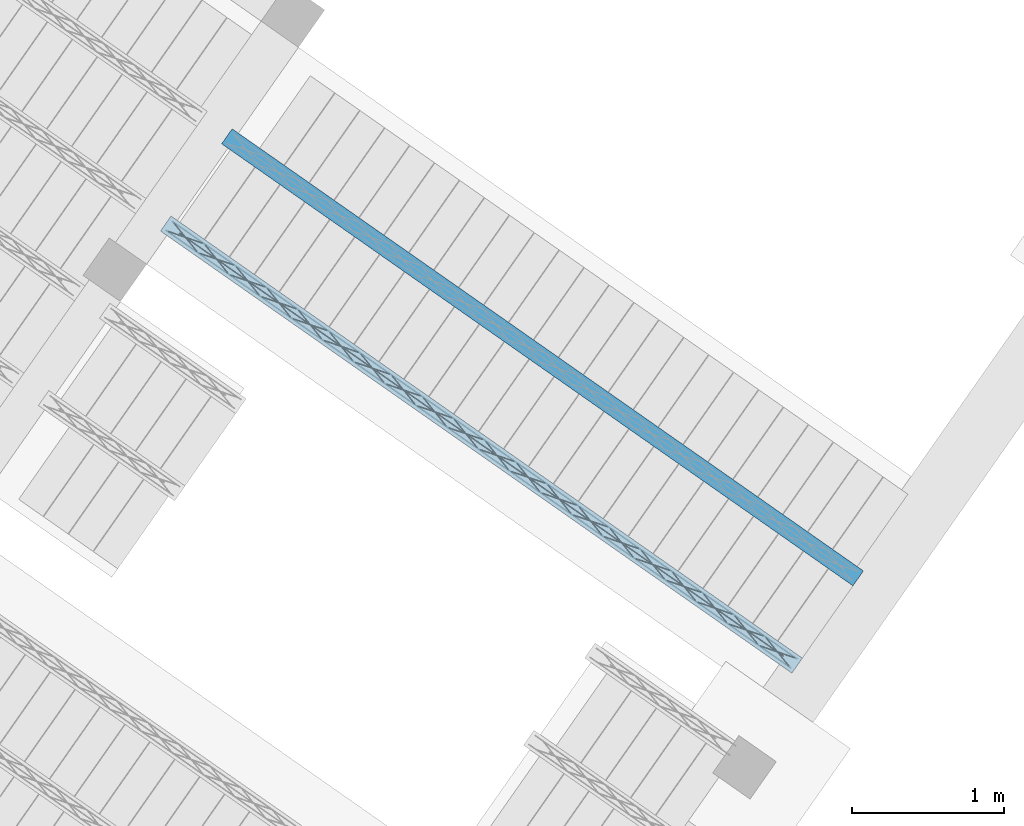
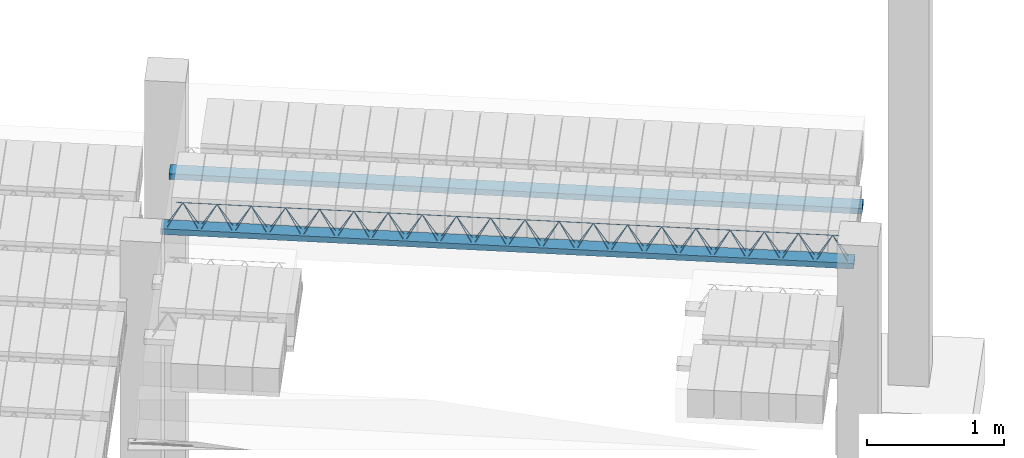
# One storey, part 47 of 80: 2 beams.
"""IFC2X3 building model written with IfcOpenShell, lengths in metres."""

from ifc_helpers import new_model, entity, si_unit, converted_unit, derived_unit, direction, frame, frame_2d, origin, origin_2d_with_axis, place, context, subcontext, project, spatial, rectangle, circle, extrude, material, type_object, element, save


model = new_model("IFC2X3")

# Units and contexts
model_context = context("Model", 3, precision=1e-05, world=origin(), true_north=direction((6.123031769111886e-17, 1.0)))
body_context = subcontext(model_context, "Body", "Model", "MODEL_VIEW")
ifc_project = project(units=[si_unit("LENGTHUNIT", "METRE"), si_unit("AREAUNIT", "SQUARE_METRE"), si_unit("VOLUMEUNIT", "CUBIC_METRE"), converted_unit("PLANEANGLEUNIT", "DEGREE", entity("IfcPlaneAngleMeasure", 0.017453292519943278), si_unit("PLANEANGLEUNIT", "RADIAN"), dimensions=[0, 0, 0, 0, 0, 0, 0]), si_unit("MASSUNIT", "GRAM", prefix="KILO"), derived_unit("MASSDENSITYUNIT", [(si_unit("MASSUNIT", "GRAM", prefix="KILO"), 1), (si_unit("LENGTHUNIT", "METRE"), -3)]), derived_unit("IONCONCENTRATIONUNIT", [(si_unit("MASSUNIT", "GRAM", prefix="KILO"), 1), (si_unit("LENGTHUNIT", "METRE"), -3)]), derived_unit("MOMENTOFINERTIAUNIT", [(si_unit("LENGTHUNIT", "METRE"), 4)]), si_unit("TIMEUNIT", "SECOND"), si_unit("FREQUENCYUNIT", "HERTZ"), si_unit("THERMODYNAMICTEMPERATUREUNIT", "DEGREE_CELSIUS"), derived_unit("THERMALTRANSMITTANCEUNIT", [(si_unit("MASSUNIT", "GRAM", prefix="KILO"), 1), (si_unit("THERMODYNAMICTEMPERATUREUNIT", "KELVIN"), -1), (si_unit("TIMEUNIT", "SECOND"), -3)]), derived_unit("THERMALCONDUCTANCEUNIT", [(si_unit("MASSUNIT", "GRAM", prefix="KILO"), 1), (si_unit("THERMODYNAMICTEMPERATUREUNIT", "KELVIN"), -1), (si_unit("TIMEUNIT", "SECOND"), -3), (si_unit("LENGTHUNIT", "METRE"), 1)]), derived_unit("VOLUMETRICFLOWRATEUNIT", [(si_unit("LENGTHUNIT", "METRE", prefix="DECI"), 3), (si_unit("TIMEUNIT", "SECOND"), -1)]), derived_unit("MASSFLOWRATEUNIT", [(si_unit("MASSUNIT", "GRAM", prefix="KILO"), 1), (si_unit("TIMEUNIT", "SECOND"), -1)]), derived_unit("ROTATIONALFREQUENCYUNIT", [(si_unit("TIMEUNIT", "SECOND"), -1)]), si_unit("ELECTRICCURRENTUNIT", "AMPERE"), si_unit("ELECTRICVOLTAGEUNIT", "VOLT"), si_unit("POWERUNIT", "WATT"), si_unit("FORCEUNIT", "NEWTON", prefix="KILO"), si_unit("ILLUMINANCEUNIT", "LUX"), si_unit("LUMINOUSFLUXUNIT", "LUMEN"), si_unit("LUMINOUSINTENSITYUNIT", "CANDELA"), si_unit("ENERGYUNIT", "JOULE"), derived_unit("USERDEFINED", [(si_unit("MASSUNIT", "GRAM", prefix="KILO"), -1), (si_unit("LENGTHUNIT", "METRE"), -2), (si_unit("TIMEUNIT", "SECOND"), 3), (si_unit("LUMINOUSFLUXUNIT", "LUMEN"), 1)]), derived_unit("USERDEFINED", [(si_unit("MASSUNIT", "GRAM", prefix="KILO"), 1), (si_unit("TIMEUNIT", "SECOND"), -3), (si_unit("LENGTHUNIT", "METRE"), 3), (si_unit("ELECTRICCURRENTUNIT", "AMPERE"), -2)]), derived_unit("SOUNDPOWERUNIT", [(si_unit("MASSUNIT", "GRAM", prefix="KILO"), 1), (si_unit("TIMEUNIT", "SECOND"), -3), (si_unit("LENGTHUNIT", "METRE"), 2)]), derived_unit("SOUNDPRESSUREUNIT", [(si_unit("MASSUNIT", "GRAM", prefix="KILO"), 1), (si_unit("LENGTHUNIT", "METRE"), -1), (si_unit("TIMEUNIT", "SECOND"), -2)]), derived_unit("LINEARVELOCITYUNIT", [(si_unit("LENGTHUNIT", "METRE"), 1), (si_unit("TIMEUNIT", "SECOND"), -1)]), si_unit("PRESSUREUNIT", "PASCAL"), derived_unit("USERDEFINED", [(si_unit("MASSUNIT", "GRAM", prefix="KILO"), 1), (si_unit("LENGTHUNIT", "METRE"), -2), (si_unit("TIMEUNIT", "SECOND"), -2)]), derived_unit("LINEARFORCEUNIT", [(si_unit("MASSUNIT", "GRAM", prefix="KILO"), 1), (si_unit("TIMEUNIT", "SECOND"), -2)]), derived_unit("PLANARFORCEUNIT", [(si_unit("MASSUNIT", "GRAM", prefix="KILO"), 1), (si_unit("LENGTHUNIT", "METRE"), -1), (si_unit("TIMEUNIT", "SECOND"), -2)]), derived_unit("SPECIFICHEATCAPACITYUNIT", [(si_unit("THERMODYNAMICTEMPERATUREUNIT", "KELVIN"), -1), (si_unit("LENGTHUNIT", "METRE"), 2), (si_unit("TIMEUNIT", "SECOND"), -2)]), derived_unit("HEATFLUXDENSITYUNIT", [(si_unit("MASSUNIT", "GRAM", prefix="KILO"), 1), (si_unit("TIMEUNIT", "SECOND"), -3)]), derived_unit("HEATINGVALUEUNIT", [(si_unit("LENGTHUNIT", "METRE"), 2), (si_unit("TIMEUNIT", "SECOND"), -2)]), derived_unit("VAPORPERMEABILITYUNIT", [(si_unit("LENGTHUNIT", "METRE"), -1), (si_unit("TIMEUNIT", "SECOND"), 1)]), derived_unit("DYNAMICVISCOSITYUNIT", [(si_unit("MASSUNIT", "GRAM", prefix="KILO"), 1), (si_unit("TIMEUNIT", "SECOND"), -1), (si_unit("LENGTHUNIT", "METRE"), -1)]), derived_unit("THERMALEXPANSIONCOEFFICIENTUNIT", [(si_unit("THERMODYNAMICTEMPERATUREUNIT", "KELVIN"), -1)]), derived_unit("MODULUSOFELASTICITYUNIT", [(si_unit("MASSUNIT", "GRAM", prefix="KILO"), 1), (si_unit("LENGTHUNIT", "METRE"), -1), (si_unit("TIMEUNIT", "SECOND"), -2)]), derived_unit("ISOTHERMALMOISTURECAPACITYUNIT", [(si_unit("MASSUNIT", "GRAM", prefix="KILO"), -1), (si_unit("LENGTHUNIT", "METRE"), 3)]), derived_unit("MOISTUREDIFFUSIVITYUNIT", [(si_unit("TIMEUNIT", "SECOND"), -1), (si_unit("LENGTHUNIT", "METRE"), 2)]), derived_unit("MASSPERLENGTHUNIT", [(si_unit("MASSUNIT", "GRAM", prefix="KILO"), 1), (si_unit("LENGTHUNIT", "METRE"), -1)]), derived_unit("THERMALRESISTANCEUNIT", [(si_unit("MASSUNIT", "GRAM", prefix="KILO"), -1), (si_unit("TIMEUNIT", "SECOND"), 3), (si_unit("THERMODYNAMICTEMPERATUREUNIT", "KELVIN"), 1)]), derived_unit("ACCELERATIONUNIT", [(si_unit("LENGTHUNIT", "METRE"), 1), (si_unit("TIMEUNIT", "SECOND"), -2)]), derived_unit("ANGULARVELOCITYUNIT", [(si_unit("TIMEUNIT", "SECOND"), -1), (si_unit("PLANEANGLEUNIT", "RADIAN"), 1)]), derived_unit("LINEARSTIFFNESSUNIT", [(si_unit("MASSUNIT", "GRAM", prefix="KILO"), 1), (si_unit("TIMEUNIT", "SECOND"), -2)]), derived_unit("WARPINGCONSTANTUNIT", [(si_unit("LENGTHUNIT", "METRE"), 6)]), derived_unit("LINEARMOMENTUNIT", [(si_unit("MASSUNIT", "GRAM", prefix="KILO"), 1), (si_unit("LENGTHUNIT", "METRE"), 1), (si_unit("TIMEUNIT", "SECOND"), -2)]), derived_unit("TORQUEUNIT", [(si_unit("MASSUNIT", "GRAM", prefix="KILO"), 1), (si_unit("LENGTHUNIT", "METRE"), 2), (si_unit("TIMEUNIT", "SECOND"), -2)])], contexts=[model_context])

# Site, building, storey
site_placement = place(None, origin())
site = spatial("IfcSite", under=ifc_project, at=site_placement, Name="Default", CompositionType="ELEMENT")
building_placement = place(site_placement, origin())
building = spatial("IfcBuilding", under=site, at=building_placement, CompositionType="ELEMENT")
storey_placement = place(building_placement, frame((0.0, 0.0, 95.94)))
storey = spatial("IfcBuildingStorey", under=building, at=storey_placement, Name="PB", CompositionType="ELEMENT", Elevation=95.94)

# Beams
beam_type = type_object("IfcBeamType", Name="Vigueta 1 (Paño 15) (Mf = 33.15)", PredefinedType="JOIST")
beam_1_placement = place(storey_placement, origin())
element("IfcBeam", 1, at=beam_1_placement, inside=storey, type_object=beam_type, Name="Vigueta 1 (Paño 15) (Mf = 33.15)", ObjectType="Mf = 33.15", context=body_context, shape_type="SweptSolid", body=[
    extrude(rectangle(XDim=5.065554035, YDim=0.11999999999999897, at=frame_2d((2.220446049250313e-16, 8.118505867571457e-16), x_axis=(1.0, 0.0))), frame((8.239411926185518, 6.377753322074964, 3.2799999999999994), z_axis=(0.0, 0.0, 1.0), x_axis=(0.8191520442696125, -0.5735764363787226, 0.0)), (0.0, 0.0, 1.0), 0.04999999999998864),
    extrude(circle(Radius=0.0025, at=origin_2d_with_axis()), frame((6.163693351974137, 7.787239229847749, 3.3049999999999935), z_axis=(0.8191520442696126, -0.5735764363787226, 0.0), x_axis=(-0.5735764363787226, -0.8191520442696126, 0.0)), (0.0, 0.0, 1.0), 5.017554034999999),
    extrude(circle(Radius=0.0025, at=origin_2d_with_axis()), frame((10.225855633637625, 4.986830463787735, 3.5299999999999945), z_axis=(-0.8191520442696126, 0.5735764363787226, 0.0), x_axis=(-0.5735764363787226, -0.8191520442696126, 0.0)), (0.0, 0.0, 1.0), 4.849999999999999),
    extrude(circle(Radius=0.0025, at=origin_2d_with_axis()), frame((10.26664328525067, 4.914322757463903, 3.3049999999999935), z_axis=(-0.3145304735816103, 0.389334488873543, 0.8657304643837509), x_axis=(-0.7778747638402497, -0.6284193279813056, 0.0)), (0.0, 0.0, 1.0), 0.2598961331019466),
    extrude(circle(Radius=0.0025, at=origin_2d_with_axis()), frame((10.061855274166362, 5.057716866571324, 3.3049999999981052), z_axis=(0.47343050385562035, -0.1624017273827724, 0.8657304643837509), x_axis=(-0.3244721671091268, -0.9458952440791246, 0.0)), (0.0, 0.0, 1.0), 0.25989613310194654),
    extrude(circle(Radius=0.0025, at=origin_2d_with_axis()), frame((10.061855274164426, 5.057716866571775, 3.3049999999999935), z_axis=(-0.3145304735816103, 0.389334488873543, 0.8657304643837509), x_axis=(-0.7778747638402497, -0.6284193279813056, 0.0)), (0.0, 0.0, 1.0), 0.2598961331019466),
    extrude(circle(Radius=0.0025, at=origin_2d_with_axis()), frame((9.857067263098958, 5.201110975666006, 3.3049999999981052), z_axis=(0.47343050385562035, -0.1624017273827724, 0.8657304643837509), x_axis=(-0.3244721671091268, -0.9458952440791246, 0.0)), (0.0, 0.0, 1.0), 0.25989613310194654),
    extrude(circle(Radius=0.0025, at=origin_2d_with_axis()), frame((9.857067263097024, 5.201110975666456, 3.3049999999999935), z_axis=(-0.3145304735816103, 0.389334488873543, 0.8657304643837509), x_axis=(-0.7778747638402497, -0.6284193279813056, 0.0)), (0.0, 0.0, 1.0), 0.2598961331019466),
    extrude(circle(Radius=0.0025, at=origin_2d_with_axis()), frame((9.652279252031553, 5.344505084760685, 3.3049999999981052), z_axis=(0.47343050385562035, -0.1624017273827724, 0.8657304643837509), x_axis=(-0.3244721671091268, -0.9458952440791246, 0.0)), (0.0, 0.0, 1.0), 0.25989613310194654),
    extrude(circle(Radius=0.0025, at=origin_2d_with_axis()), frame((9.65227925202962, 5.3445050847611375, 3.3049999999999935), z_axis=(-0.3145304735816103, 0.389334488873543, 0.8657304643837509), x_axis=(-0.7778747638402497, -0.6284193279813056, 0.0)), (0.0, 0.0, 1.0), 0.2598961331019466),
    extrude(circle(Radius=0.0025, at=origin_2d_with_axis()), frame((9.447491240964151, 5.487899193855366, 3.3049999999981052), z_axis=(0.47343050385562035, -0.1624017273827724, 0.8657304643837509), x_axis=(-0.3244721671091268, -0.9458952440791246, 0.0)), (0.0, 0.0, 1.0), 0.25989613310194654),
    extrude(circle(Radius=0.0025, at=origin_2d_with_axis()), frame((9.447491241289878, 5.4878991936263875, 3.3049999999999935), z_axis=(-0.3145304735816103, 0.389334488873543, 0.8657304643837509), x_axis=(-0.7778747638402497, -0.6284193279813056, 0.0)), (0.0, 0.0, 1.0), 0.2598961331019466),
    extrude(circle(Radius=0.0025, at=origin_2d_with_axis()), frame((9.242703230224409, 5.631293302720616, 3.3049999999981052), z_axis=(0.47343050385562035, -0.1624017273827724, 0.8657304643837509), x_axis=(-0.3244721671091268, -0.9458952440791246, 0.0)), (0.0, 0.0, 1.0), 0.25989613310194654),
    extrude(circle(Radius=0.0025, at=origin_2d_with_axis()), frame((9.242703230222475, 5.631293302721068, 3.3049999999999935), z_axis=(-0.3145304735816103, 0.389334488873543, 0.8657304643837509), x_axis=(-0.7778747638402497, -0.6284193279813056, 0.0)), (0.0, 0.0, 1.0), 0.2598961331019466),
    extrude(circle(Radius=0.0025, at=origin_2d_with_axis()), frame((9.037915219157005, 5.7746874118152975, 3.3049999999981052), z_axis=(0.47343050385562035, -0.1624017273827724, 0.8657304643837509), x_axis=(-0.3244721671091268, -0.9458952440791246, 0.0)), (0.0, 0.0, 1.0), 0.25989613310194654),
    extrude(circle(Radius=0.0025, at=origin_2d_with_axis()), frame((9.037915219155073, 5.774687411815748, 3.3049999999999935), z_axis=(-0.3145304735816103, 0.389334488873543, 0.8657304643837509), x_axis=(-0.7778747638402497, -0.6284193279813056, 0.0)), (0.0, 0.0, 1.0), 0.2598961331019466),
    extrude(circle(Radius=0.0025, at=origin_2d_with_axis()), frame((8.833127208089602, 5.918081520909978, 3.3049999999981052), z_axis=(0.47343050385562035, -0.1624017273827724, 0.8657304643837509), x_axis=(-0.3244721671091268, -0.9458952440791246, 0.0)), (0.0, 0.0, 1.0), 0.25989613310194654),
    extrude(circle(Radius=0.0025, at=origin_2d_with_axis()), frame((8.833127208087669, 5.918081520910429, 3.3049999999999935), z_axis=(-0.3145304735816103, 0.389334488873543, 0.8657304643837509), x_axis=(-0.7778747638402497, -0.6284193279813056, 0.0)), (0.0, 0.0, 1.0), 0.2598961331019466),
    extrude(circle(Radius=0.0025, at=origin_2d_with_axis()), frame((8.6283391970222, 6.061475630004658, 3.3049999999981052), z_axis=(0.47343050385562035, -0.1624017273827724, 0.8657304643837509), x_axis=(-0.3244721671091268, -0.9458952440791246, 0.0)), (0.0, 0.0, 1.0), 0.25989613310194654),
    extrude(circle(Radius=0.0025, at=origin_2d_with_axis()), frame((8.628339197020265, 6.06147563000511, 3.3049999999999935), z_axis=(-0.3145304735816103, 0.389334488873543, 0.8657304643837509), x_axis=(-0.7778747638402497, -0.6284193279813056, 0.0)), (0.0, 0.0, 1.0), 0.2598961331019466),
    extrude(circle(Radius=0.0025, at=origin_2d_with_axis()), frame((8.423551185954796, 6.204869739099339, 3.3049999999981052), z_axis=(0.47343050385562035, -0.1624017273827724, 0.8657304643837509), x_axis=(-0.3244721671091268, -0.9458952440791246, 0.0)), (0.0, 0.0, 1.0), 0.25989613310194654),
    extrude(circle(Radius=0.0025, at=origin_2d_with_axis()), frame((8.423551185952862, 6.20486973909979, 3.3049999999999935), z_axis=(-0.3145304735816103, 0.389334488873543, 0.8657304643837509), x_axis=(-0.7778747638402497, -0.6284193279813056, 0.0)), (0.0, 0.0, 1.0), 0.2598961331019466),
    extrude(circle(Radius=0.0025, at=origin_2d_with_axis()), frame((8.218763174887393, 6.34826384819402, 3.3049999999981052), z_axis=(0.47343050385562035, -0.1624017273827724, 0.8657304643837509), x_axis=(-0.3244721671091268, -0.9458952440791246, 0.0)), (0.0, 0.0, 1.0), 0.25989613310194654),
    extrude(circle(Radius=0.0025, at=origin_2d_with_axis()), frame((8.21876317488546, 6.348263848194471, 3.3049999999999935), z_axis=(-0.3145304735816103, 0.389334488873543, 0.8657304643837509), x_axis=(-0.7778747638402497, -0.6284193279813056, 0.0)), (0.0, 0.0, 1.0), 0.2598961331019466),
    extrude(circle(Radius=0.0025, at=origin_2d_with_axis()), frame((8.013975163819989, 6.4916579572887, 3.3049999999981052), z_axis=(0.47343050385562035, -0.1624017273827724, 0.8657304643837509), x_axis=(-0.3244721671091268, -0.9458952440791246, 0.0)), (0.0, 0.0, 1.0), 0.25989613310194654),
    extrude(circle(Radius=0.0025, at=origin_2d_with_axis()), frame((8.013975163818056, 6.491657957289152, 3.3049999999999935), z_axis=(-0.3145304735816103, 0.389334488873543, 0.8657304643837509), x_axis=(-0.7778747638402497, -0.6284193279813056, 0.0)), (0.0, 0.0, 1.0), 0.2598961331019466),
    extrude(circle(Radius=0.0025, at=origin_2d_with_axis()), frame((7.809187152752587, 6.6350520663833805, 3.3049999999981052), z_axis=(0.47343050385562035, -0.1624017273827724, 0.8657304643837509), x_axis=(-0.3244721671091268, -0.9458952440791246, 0.0)), (0.0, 0.0, 1.0), 0.25989613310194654),
    extrude(circle(Radius=0.0025, at=origin_2d_with_axis()), frame((7.809187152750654, 6.635052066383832, 3.3049999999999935), z_axis=(-0.3145304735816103, 0.389334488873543, 0.8657304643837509), x_axis=(-0.7778747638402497, -0.6284193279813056, 0.0)), (0.0, 0.0, 1.0), 0.2598961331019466),
    extrude(circle(Radius=0.0025, at=origin_2d_with_axis()), frame((7.604399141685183, 6.778446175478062, 3.3049999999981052), z_axis=(0.47343050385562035, -0.1624017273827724, 0.8657304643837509), x_axis=(-0.3244721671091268, -0.9458952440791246, 0.0)), (0.0, 0.0, 1.0), 0.25989613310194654),
    extrude(circle(Radius=0.0025, at=origin_2d_with_axis()), frame((7.60439914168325, 6.778446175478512, 3.3049999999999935), z_axis=(-0.3145304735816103, 0.389334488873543, 0.8657304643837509), x_axis=(-0.7778747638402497, -0.6284193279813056, 0.0)), (0.0, 0.0, 1.0), 0.2598961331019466),
    extrude(circle(Radius=0.0025, at=origin_2d_with_axis()), frame((7.399611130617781, 6.921840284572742, 3.3049999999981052), z_axis=(0.47343050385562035, -0.1624017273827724, 0.8657304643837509), x_axis=(-0.3244721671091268, -0.9458952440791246, 0.0)), (0.0, 0.0, 1.0), 0.25989613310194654),
    extrude(circle(Radius=0.0025, at=origin_2d_with_axis()), frame((7.399611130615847, 6.921840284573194, 3.3049999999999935), z_axis=(-0.3145304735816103, 0.389334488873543, 0.8657304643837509), x_axis=(-0.7778747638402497, -0.6284193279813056, 0.0)), (0.0, 0.0, 1.0), 0.2598961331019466),
    extrude(circle(Radius=0.0025, at=origin_2d_with_axis()), frame((7.194823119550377, 7.0652343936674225, 3.3049999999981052), z_axis=(0.47343050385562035, -0.1624017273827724, 0.8657304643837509), x_axis=(-0.3244721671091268, -0.9458952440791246, 0.0)), (0.0, 0.0, 1.0), 0.25989613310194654),
    extrude(circle(Radius=0.0025, at=origin_2d_with_axis()), frame((7.1948231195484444, 7.065234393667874, 3.3049999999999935), z_axis=(-0.3145304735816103, 0.389334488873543, 0.8657304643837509), x_axis=(-0.7778747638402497, -0.6284193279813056, 0.0)), (0.0, 0.0, 1.0), 0.2598961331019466),
    extrude(circle(Radius=0.0025, at=origin_2d_with_axis()), frame((6.990035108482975, 7.208628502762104, 3.3049999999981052), z_axis=(0.47343050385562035, -0.1624017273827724, 0.8657304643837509), x_axis=(-0.3244721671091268, -0.9458952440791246, 0.0)), (0.0, 0.0, 1.0), 0.25989613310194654),
    extrude(circle(Radius=0.0025, at=origin_2d_with_axis()), frame((6.99003510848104, 7.208628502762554, 3.3049999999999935), z_axis=(-0.3145304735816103, 0.389334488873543, 0.8657304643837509), x_axis=(-0.7778747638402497, -0.6284193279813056, 0.0)), (0.0, 0.0, 1.0), 0.2598961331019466),
    extrude(circle(Radius=0.0025, at=origin_2d_with_axis()), frame((6.785247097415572, 7.352022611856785, 3.3049999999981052), z_axis=(0.47343050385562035, -0.1624017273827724, 0.8657304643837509), x_axis=(-0.3244721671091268, -0.9458952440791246, 0.0)), (0.0, 0.0, 1.0), 0.25989613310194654),
    extrude(circle(Radius=0.0025, at=origin_2d_with_axis()), frame((6.785247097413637, 7.352022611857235, 3.3049999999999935), z_axis=(-0.3145304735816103, 0.389334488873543, 0.8657304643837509), x_axis=(-0.7778747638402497, -0.6284193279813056, 0.0)), (0.0, 0.0, 1.0), 0.2598961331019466),
    extrude(circle(Radius=0.0025, at=origin_2d_with_axis()), frame((6.580459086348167, 7.495416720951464, 3.3049999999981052), z_axis=(0.47343050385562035, -0.1624017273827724, 0.8657304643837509), x_axis=(-0.3244721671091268, -0.9458952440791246, 0.0)), (0.0, 0.0, 1.0), 0.25989613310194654),
    extrude(circle(Radius=0.0025, at=origin_2d_with_axis()), frame((6.580459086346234, 7.4954167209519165, 3.3049999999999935), z_axis=(-0.3145304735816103, 0.389334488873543, 0.8657304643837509), x_axis=(-0.7778747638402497, -0.6284193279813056, 0.0)), (0.0, 0.0, 1.0), 0.2598961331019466),
    extrude(circle(Radius=0.0025, at=origin_2d_with_axis()), frame((6.375671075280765, 7.638810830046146, 3.3049999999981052), z_axis=(0.47343050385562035, -0.1624017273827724, 0.8657304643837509), x_axis=(-0.3244721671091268, -0.9458952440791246, 0.0)), (0.0, 0.0, 1.0), 0.25989613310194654),
    extrude(circle(Radius=0.0025, at=origin_2d_with_axis()), frame((6.375671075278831, 7.638810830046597, 3.3049999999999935), z_axis=(-0.3145304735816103, 0.389334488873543, 0.8657304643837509), x_axis=(-0.7778747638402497, -0.6284193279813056, 0.0)), (0.0, 0.0, 1.0), 0.2598961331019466),
    extrude(circle(Radius=0.0025, at=origin_2d_with_axis()), frame((6.170883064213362, 7.782204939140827, 3.3049999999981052), z_axis=(0.47343050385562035, -0.1624017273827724, 0.8657304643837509), x_axis=(-0.3244721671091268, -0.9458952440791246, 0.0)), (0.0, 0.0, 1.0), 0.25989613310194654),
    extrude(circle(Radius=0.0025, at=origin_2d_with_axis()), frame((10.315130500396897, 4.968267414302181, 3.3049999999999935), z_axis=(-0.8191520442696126, 0.5735764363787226, 0.0), x_axis=(-0.5735764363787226, -0.8191520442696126, 0.0)), (0.0, 0.0, 1.0), 5.017554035),
    extrude(circle(Radius=0.0025, at=origin_2d_with_axis()), frame((10.307940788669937, 4.973301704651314, 3.3049999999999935), z_axis=(-0.47343050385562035, 0.1624017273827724, 0.8657304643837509), x_axis=(-0.3244721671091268, -0.9458952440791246, 0.0)), (0.0, 0.0, 1.0), 0.25989613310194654),
    extrude(circle(Radius=0.0025, at=origin_2d_with_axis()), frame((10.103152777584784, 5.116695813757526, 3.3049999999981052), z_axis=(0.3145304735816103, -0.389334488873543, 0.8657304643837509), x_axis=(-0.7778747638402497, -0.6284193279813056, 0.0)), (0.0, 0.0, 1.0), 0.2598961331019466),
    extrude(circle(Radius=0.0025, at=origin_2d_with_axis()), frame((10.103152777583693, 5.116695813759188, 3.3049999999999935), z_axis=(-0.47343050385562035, 0.1624017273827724, 0.8657304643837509), x_axis=(-0.3244721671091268, -0.9458952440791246, 0.0)), (0.0, 0.0, 1.0), 0.25989613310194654),
    extrude(circle(Radius=0.0025, at=origin_2d_with_axis()), frame((9.898364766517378, 5.260089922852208, 3.3049999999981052), z_axis=(0.3145304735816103, -0.389334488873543, 0.8657304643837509), x_axis=(-0.7778747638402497, -0.6284193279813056, 0.0)), (0.0, 0.0, 1.0), 0.2598961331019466),
    extrude(circle(Radius=0.0025, at=origin_2d_with_axis()), frame((9.898364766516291, 5.260089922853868, 3.3049999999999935), z_axis=(-0.47343050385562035, 0.1624017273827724, 0.8657304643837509), x_axis=(-0.3244721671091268, -0.9458952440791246, 0.0)), (0.0, 0.0, 1.0), 0.25989613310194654),
    extrude(circle(Radius=0.0025, at=origin_2d_with_axis()), frame((9.693576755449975, 5.403484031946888, 3.3049999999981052), z_axis=(0.3145304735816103, -0.389334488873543, 0.8657304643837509), x_axis=(-0.7778747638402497, -0.6284193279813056, 0.0)), (0.0, 0.0, 1.0), 0.2598961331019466),
    extrude(circle(Radius=0.0025, at=origin_2d_with_axis()), frame((9.693576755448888, 5.403484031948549, 3.3049999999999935), z_axis=(-0.47343050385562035, 0.1624017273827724, 0.8657304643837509), x_axis=(-0.3244721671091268, -0.9458952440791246, 0.0)), (0.0, 0.0, 1.0), 0.25989613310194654),
    extrude(circle(Radius=0.0025, at=origin_2d_with_axis()), frame((9.488788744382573, 5.546878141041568, 3.3049999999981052), z_axis=(0.3145304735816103, -0.389334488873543, 0.8657304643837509), x_axis=(-0.7778747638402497, -0.6284193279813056, 0.0)), (0.0, 0.0, 1.0), 0.2598961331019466),
    extrude(circle(Radius=0.0025, at=origin_2d_with_axis()), frame((9.488788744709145, 5.546878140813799, 3.3049999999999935), z_axis=(-0.47343050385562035, 0.1624017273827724, 0.8657304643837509), x_axis=(-0.3244721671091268, -0.9458952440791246, 0.0)), (0.0, 0.0, 1.0), 0.25989613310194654),
    extrude(circle(Radius=0.0025, at=origin_2d_with_axis()), frame((9.28400073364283, 5.690272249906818, 3.3049999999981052), z_axis=(0.3145304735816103, -0.389334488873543, 0.8657304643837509), x_axis=(-0.7778747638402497, -0.6284193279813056, 0.0)), (0.0, 0.0, 1.0), 0.2598961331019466),
    extrude(circle(Radius=0.0025, at=origin_2d_with_axis()), frame((9.284000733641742, 5.69027224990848, 3.3049999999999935), z_axis=(-0.47343050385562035, 0.1624017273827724, 0.8657304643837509), x_axis=(-0.3244721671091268, -0.9458952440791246, 0.0)), (0.0, 0.0, 1.0), 0.25989613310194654),
    extrude(circle(Radius=0.0025, at=origin_2d_with_axis()), frame((9.079212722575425, 5.8336663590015, 3.3049999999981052), z_axis=(0.3145304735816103, -0.389334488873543, 0.8657304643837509), x_axis=(-0.7778747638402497, -0.6284193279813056, 0.0)), (0.0, 0.0, 1.0), 0.2598961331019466),
    extrude(circle(Radius=0.0025, at=origin_2d_with_axis()), frame((9.07921272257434, 5.83366635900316, 3.3049999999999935), z_axis=(-0.47343050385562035, 0.1624017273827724, 0.8657304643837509), x_axis=(-0.3244721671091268, -0.9458952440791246, 0.0)), (0.0, 0.0, 1.0), 0.25989613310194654),
    extrude(circle(Radius=0.0025, at=origin_2d_with_axis()), frame((8.874424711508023, 5.97706046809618, 3.3049999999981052), z_axis=(0.3145304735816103, -0.389334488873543, 0.8657304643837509), x_axis=(-0.7778747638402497, -0.6284193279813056, 0.0)), (0.0, 0.0, 1.0), 0.2598961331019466),
    extrude(circle(Radius=0.0025, at=origin_2d_with_axis()), frame((8.874424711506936, 5.977060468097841, 3.3049999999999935), z_axis=(-0.47343050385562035, 0.1624017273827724, 0.8657304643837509), x_axis=(-0.3244721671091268, -0.9458952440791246, 0.0)), (0.0, 0.0, 1.0), 0.25989613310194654),
    extrude(circle(Radius=0.0025, at=origin_2d_with_axis()), frame((8.66963670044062, 6.120454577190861, 3.3049999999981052), z_axis=(0.3145304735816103, -0.389334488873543, 0.8657304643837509), x_axis=(-0.7778747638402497, -0.6284193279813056, 0.0)), (0.0, 0.0, 1.0), 0.2598961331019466),
    extrude(circle(Radius=0.0025, at=origin_2d_with_axis()), frame((8.669636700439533, 6.120454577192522, 3.3049999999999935), z_axis=(-0.47343050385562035, 0.1624017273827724, 0.8657304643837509), x_axis=(-0.3244721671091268, -0.9458952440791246, 0.0)), (0.0, 0.0, 1.0), 0.25989613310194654),
    extrude(circle(Radius=0.0025, at=origin_2d_with_axis()), frame((8.464848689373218, 6.263848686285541, 3.3049999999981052), z_axis=(0.3145304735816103, -0.389334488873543, 0.8657304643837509), x_axis=(-0.7778747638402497, -0.6284193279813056, 0.0)), (0.0, 0.0, 1.0), 0.2598961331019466),
    extrude(circle(Radius=0.0025, at=origin_2d_with_axis()), frame((8.46484868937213, 6.263848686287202, 3.3049999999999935), z_axis=(-0.47343050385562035, 0.1624017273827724, 0.8657304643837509), x_axis=(-0.3244721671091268, -0.9458952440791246, 0.0)), (0.0, 0.0, 1.0), 0.25989613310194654),
    extrude(circle(Radius=0.0025, at=origin_2d_with_axis()), frame((8.260060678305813, 6.407242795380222, 3.3049999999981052), z_axis=(0.3145304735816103, -0.389334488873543, 0.8657304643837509), x_axis=(-0.7778747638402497, -0.6284193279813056, 0.0)), (0.0, 0.0, 1.0), 0.2598961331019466),
    extrude(circle(Radius=0.0025, at=origin_2d_with_axis()), frame((8.260060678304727, 6.407242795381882, 3.3049999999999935), z_axis=(-0.47343050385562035, 0.1624017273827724, 0.8657304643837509), x_axis=(-0.3244721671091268, -0.9458952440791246, 0.0)), (0.0, 0.0, 1.0), 0.25989613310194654),
    extrude(circle(Radius=0.0025, at=origin_2d_with_axis()), frame((8.05527266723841, 6.550636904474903, 3.3049999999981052), z_axis=(0.3145304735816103, -0.389334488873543, 0.8657304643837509), x_axis=(-0.7778747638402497, -0.6284193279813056, 0.0)), (0.0, 0.0, 1.0), 0.2598961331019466),
    extrude(circle(Radius=0.0025, at=origin_2d_with_axis()), frame((8.055272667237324, 6.550636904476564, 3.3049999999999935), z_axis=(-0.47343050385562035, 0.1624017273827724, 0.8657304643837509), x_axis=(-0.3244721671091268, -0.9458952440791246, 0.0)), (0.0, 0.0, 1.0), 0.25989613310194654),
    extrude(circle(Radius=0.0025, at=origin_2d_with_axis()), frame((7.850484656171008, 6.694031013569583, 3.3049999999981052), z_axis=(0.3145304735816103, -0.389334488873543, 0.8657304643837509), x_axis=(-0.7778747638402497, -0.6284193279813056, 0.0)), (0.0, 0.0, 1.0), 0.2598961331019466),
    extrude(circle(Radius=0.0025, at=origin_2d_with_axis()), frame((7.850484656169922, 6.694031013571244, 3.3049999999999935), z_axis=(-0.47343050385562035, 0.1624017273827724, 0.8657304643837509), x_axis=(-0.3244721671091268, -0.9458952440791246, 0.0)), (0.0, 0.0, 1.0), 0.25989613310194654),
    extrude(circle(Radius=0.0025, at=origin_2d_with_axis()), frame((7.6456966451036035, 6.837425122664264, 3.3049999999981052), z_axis=(0.3145304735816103, -0.389334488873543, 0.8657304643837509), x_axis=(-0.7778747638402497, -0.6284193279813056, 0.0)), (0.0, 0.0, 1.0), 0.2598961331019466),
    extrude(circle(Radius=0.0025, at=origin_2d_with_axis()), frame((7.645696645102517, 6.837425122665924, 3.3049999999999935), z_axis=(-0.47343050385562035, 0.1624017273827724, 0.8657304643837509), x_axis=(-0.3244721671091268, -0.9458952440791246, 0.0)), (0.0, 0.0, 1.0), 0.25989613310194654),
    extrude(circle(Radius=0.0025, at=origin_2d_with_axis()), frame((7.440908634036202, 6.980819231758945, 3.3049999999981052), z_axis=(0.3145304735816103, -0.389334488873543, 0.8657304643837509), x_axis=(-0.7778747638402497, -0.6284193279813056, 0.0)), (0.0, 0.0, 1.0), 0.2598961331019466),
    extrude(circle(Radius=0.0025, at=origin_2d_with_axis()), frame((7.4409086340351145, 6.980819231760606, 3.3049999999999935), z_axis=(-0.47343050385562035, 0.1624017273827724, 0.8657304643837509), x_axis=(-0.3244721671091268, -0.9458952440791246, 0.0)), (0.0, 0.0, 1.0), 0.25989613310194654),
    extrude(circle(Radius=0.0025, at=origin_2d_with_axis()), frame((7.236120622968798, 7.124213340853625, 3.3049999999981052), z_axis=(0.3145304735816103, -0.389334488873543, 0.8657304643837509), x_axis=(-0.7778747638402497, -0.6284193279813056, 0.0)), (0.0, 0.0, 1.0), 0.2598961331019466),
    extrude(circle(Radius=0.0025, at=origin_2d_with_axis()), frame((7.236120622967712, 7.124213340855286, 3.3049999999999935), z_axis=(-0.47343050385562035, 0.1624017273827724, 0.8657304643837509), x_axis=(-0.3244721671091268, -0.9458952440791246, 0.0)), (0.0, 0.0, 1.0), 0.25989613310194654),
    extrude(circle(Radius=0.0025, at=origin_2d_with_axis()), frame((7.031332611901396, 7.267607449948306, 3.3049999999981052), z_axis=(0.3145304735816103, -0.389334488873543, 0.8657304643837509), x_axis=(-0.7778747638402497, -0.6284193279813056, 0.0)), (0.0, 0.0, 1.0), 0.2598961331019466),
    extrude(circle(Radius=0.0025, at=origin_2d_with_axis()), frame((7.031332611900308, 7.267607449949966, 3.3049999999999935), z_axis=(-0.47343050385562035, 0.1624017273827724, 0.8657304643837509), x_axis=(-0.3244721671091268, -0.9458952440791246, 0.0)), (0.0, 0.0, 1.0), 0.25989613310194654),
    extrude(circle(Radius=0.0025, at=origin_2d_with_axis()), frame((6.8265446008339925, 7.411001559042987, 3.3049999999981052), z_axis=(0.3145304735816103, -0.389334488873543, 0.8657304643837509), x_axis=(-0.7778747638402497, -0.6284193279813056, 0.0)), (0.0, 0.0, 1.0), 0.2598961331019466),
    extrude(circle(Radius=0.0025, at=origin_2d_with_axis()), frame((6.826544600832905, 7.411001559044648, 3.3049999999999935), z_axis=(-0.47343050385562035, 0.1624017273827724, 0.8657304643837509), x_axis=(-0.3244721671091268, -0.9458952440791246, 0.0)), (0.0, 0.0, 1.0), 0.25989613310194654),
    extrude(circle(Radius=0.0025, at=origin_2d_with_axis()), frame((6.621756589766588, 7.5543956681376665, 3.3049999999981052), z_axis=(0.3145304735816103, -0.389334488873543, 0.8657304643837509), x_axis=(-0.7778747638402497, -0.6284193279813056, 0.0)), (0.0, 0.0, 1.0), 0.2598961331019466),
    extrude(circle(Radius=0.0025, at=origin_2d_with_axis()), frame((6.621756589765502, 7.554395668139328, 3.3049999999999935), z_axis=(-0.47343050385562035, 0.1624017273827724, 0.8657304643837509), x_axis=(-0.3244721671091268, -0.9458952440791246, 0.0)), (0.0, 0.0, 1.0), 0.25989613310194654),
    extrude(circle(Radius=0.0025, at=origin_2d_with_axis()), frame((6.416968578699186, 7.697789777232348, 3.3049999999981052), z_axis=(0.3145304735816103, -0.389334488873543, 0.8657304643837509), x_axis=(-0.7778747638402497, -0.6284193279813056, 0.0)), (0.0, 0.0, 1.0), 0.2598961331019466),
    extrude(circle(Radius=0.0025, at=origin_2d_with_axis()), frame((6.416968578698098, 7.697789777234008, 3.3049999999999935), z_axis=(-0.47343050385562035, 0.1624017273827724, 0.8657304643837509), x_axis=(-0.3244721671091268, -0.9458952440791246, 0.0)), (0.0, 0.0, 1.0), 0.25989613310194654),
    extrude(circle(Radius=0.0025, at=origin_2d_with_axis()), frame((6.2121805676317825, 7.841183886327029, 3.3049999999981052), z_axis=(0.3145304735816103, -0.389334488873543, 0.8657304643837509), x_axis=(-0.7778747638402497, -0.6284193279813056, 0.0)), (0.0, 0.0, 1.0), 0.2598961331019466),
])
ifc_material = material(Name="Hormigón armado")
beam_2_placement = place(storey_placement, origin())
element("IfcBeam", 2, at=beam_2_placement, inside=storey, material=ifc_material, Name="238644", context=body_context, shape_type="SweptSolid", body=[
    extrude(rectangle(XDim=0.04999999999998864, YDim=0.12000000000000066, at=frame_2d((0.0, 7.528699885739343e-16), x_axis=(1.0, 0.0))), frame((6.566185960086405, 8.403900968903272, 3.3049999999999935), z_axis=(0.8191520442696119, -0.5735764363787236, 0.0), x_axis=(0.0, 0.0, -1.0)), (0.0, 0.0, 1.0), 5.065554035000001),
])

save(model, "model.ifc")
